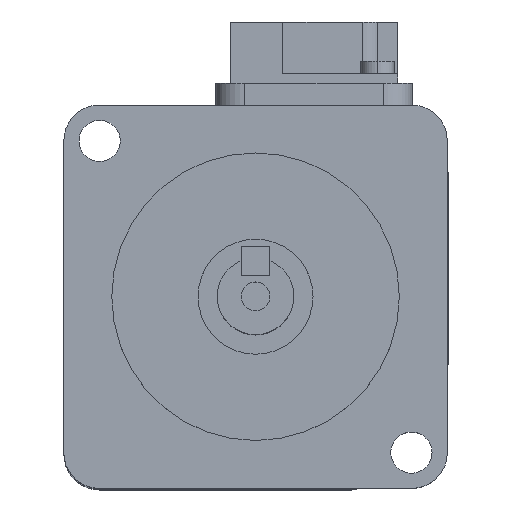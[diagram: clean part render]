
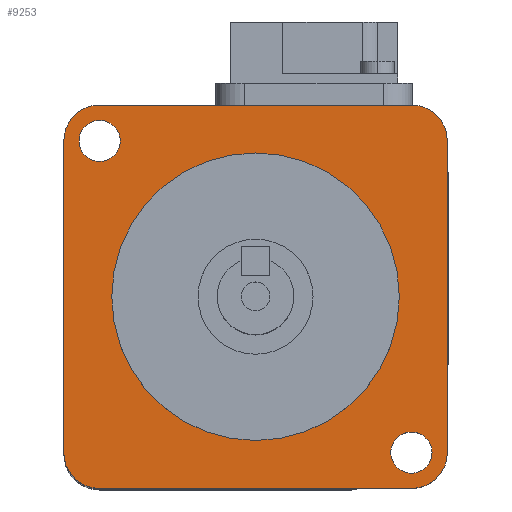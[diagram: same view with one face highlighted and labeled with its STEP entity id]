
A CAD part, top view. The second image highlights one B-rep face of the part: STEP entity #9253.
In plain terms, the highlighted planar face has unit normal (0, 0, 1).
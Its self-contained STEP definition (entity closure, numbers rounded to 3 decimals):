
#11 = ORIENTED_EDGE ( 'NONE', *, *, #9191, .T. ) ;
#12 = ORIENTED_EDGE ( 'NONE', *, *, #13, .T. ) ;
#13 = EDGE_CURVE ( 'NONE', #9190, #9079, #2527, .T. ) ;
#347 = EDGE_CURVE ( 'NONE', #472, #438, #3129, .T. ) ;
#438 = VERTEX_POINT ( 'NONE', #3282 ) ;
#472 = VERTEX_POINT ( 'NONE', #3353 ) ;
#479 = EDGE_CURVE ( 'NONE', #502, #480, #3346, .T. ) ;
#480 = VERTEX_POINT ( 'NONE', #3341 ) ;
#487 = VERTEX_POINT ( 'NONE', #2554 ) ;
#502 = VERTEX_POINT ( 'NONE', #3366 ) ;
#513 = VERTEX_POINT ( 'NONE', #3412 ) ;
#544 = EDGE_CURVE ( 'NONE', #487, #513, #3486, .T. ) ;
#2523 = DIRECTION ( 'NONE',  ( 1., 0., 0. ) ) ;
#2524 = DIRECTION ( 'NONE',  ( 0., 0., 1. ) ) ;
#2525 = CARTESIAN_POINT ( 'NONE',  ( -16.3, -16.3, 0. ) ) ;
#2526 = AXIS2_PLACEMENT_3D ( 'NONE', #2525, #2524, #2523 ) ;
#2527 = CIRCLE ( 'NONE', #2526, 3.7 ) ;
#2554 = CARTESIAN_POINT ( 'NONE',  ( 15., 0., 0. ) ) ;
#3125 = DIRECTION ( 'NONE',  ( 1., 0., 0. ) ) ;
#3126 = DIRECTION ( 'NONE',  ( 0., 0., 1. ) ) ;
#3127 = CARTESIAN_POINT ( 'NONE',  ( -16.263, 16.263, 0. ) ) ;
#3128 = AXIS2_PLACEMENT_3D ( 'NONE', #3127, #3126, #3125 ) ;
#3129 = CIRCLE ( 'NONE', #3128, 2.15 ) ;
#3282 = CARTESIAN_POINT ( 'NONE',  ( -14.113, 16.263, 0. ) ) ;
#3341 = CARTESIAN_POINT ( 'NONE',  ( 18.413, -16.263, 0. ) ) ;
#3342 = DIRECTION ( 'NONE',  ( 1., 0., 0. ) ) ;
#3343 = DIRECTION ( 'NONE',  ( 0., 0., 1. ) ) ;
#3344 = CARTESIAN_POINT ( 'NONE',  ( 16.263, -16.263, 0. ) ) ;
#3345 = AXIS2_PLACEMENT_3D ( 'NONE', #3344, #3343, #3342 ) ;
#3346 = CIRCLE ( 'NONE', #3345, 2.15 ) ;
#3353 = CARTESIAN_POINT ( 'NONE',  ( -18.413, 16.263, 0. ) ) ;
#3366 = CARTESIAN_POINT ( 'NONE',  ( 14.113, -16.263, 0. ) ) ;
#3412 = CARTESIAN_POINT ( 'NONE',  ( -15., 0., 0. ) ) ;
#3482 = DIRECTION ( 'NONE',  ( 1., 0., 0. ) ) ;
#3483 = DIRECTION ( 'NONE',  ( 0., 0., 1. ) ) ;
#3484 = CARTESIAN_POINT ( 'NONE',  ( 0., 0., 0. ) ) ;
#3485 = AXIS2_PLACEMENT_3D ( 'NONE', #3484, #3483, #3482 ) ;
#3486 = CIRCLE ( 'NONE', #3485, 15. ) ;
#7121 = DIRECTION ( 'NONE',  ( 1., 0., 0. ) ) ;
#7122 = DIRECTION ( 'NONE',  ( 0., 0., 1. ) ) ;
#7123 = CARTESIAN_POINT ( 'NONE',  ( -16.3, 16.3, 0. ) ) ;
#7124 = AXIS2_PLACEMENT_3D ( 'NONE', #7123, #7122, #7121 ) ;
#7125 = CIRCLE ( 'NONE', #7124, 3.7 ) ;
#7192 = DIRECTION ( 'NONE',  ( 1., 0., 0. ) ) ;
#7193 = DIRECTION ( 'NONE',  ( 0., 0., 1. ) ) ;
#7194 = CARTESIAN_POINT ( 'NONE',  ( -16.263, 16.263, 0. ) ) ;
#7195 = AXIS2_PLACEMENT_3D ( 'NONE', #7194, #7193, #7192 ) ;
#7196 = CIRCLE ( 'NONE', #7195, 2.15 ) ;
#7220 = DIRECTION ( 'NONE',  ( 1., 0., 0. ) ) ;
#7221 = DIRECTION ( 'NONE',  ( 0., 0., 1. ) ) ;
#7222 = CARTESIAN_POINT ( 'NONE',  ( 16.3, -16.3, 0. ) ) ;
#7223 = AXIS2_PLACEMENT_3D ( 'NONE', #7222, #7221, #7220 ) ;
#7224 = CIRCLE ( 'NONE', #7223, 3.7 ) ;
#7229 = DIRECTION ( 'NONE',  ( 1., 0., 0. ) ) ;
#7230 = DIRECTION ( 'NONE',  ( 0., 0., 1. ) ) ;
#7231 = CARTESIAN_POINT ( 'NONE',  ( 16.3, 16.3, 0. ) ) ;
#7232 = AXIS2_PLACEMENT_3D ( 'NONE', #7231, #7230, #7229 ) ;
#7237 = CIRCLE ( 'NONE', #7232, 3.7 ) ;
#7842 = DIRECTION ( 'NONE',  ( 1., 0., 0. ) ) ;
#7843 = VECTOR ( 'NONE', #7842, 1000. ) ;
#7844 = CARTESIAN_POINT ( 'NONE',  ( -20., -20., 0. ) ) ;
#7845 = LINE ( 'NONE', #7844, #7843 ) ;
#7850 = CARTESIAN_POINT ( 'NONE',  ( 16.3, -20., 0. ) ) ;
#7851 = CARTESIAN_POINT ( 'NONE',  ( -16.3, -20., 0. ) ) ;
#7922 = CARTESIAN_POINT ( 'NONE',  ( -16.3, 20., 0. ) ) ;
#7929 = CARTESIAN_POINT ( 'NONE',  ( 16.3, 20., 0. ) ) ;
#7959 = CARTESIAN_POINT ( 'NONE',  ( -20., 16.3, 0. ) ) ;
#7982 = DIRECTION ( 'NONE',  ( -1., 0., 0. ) ) ;
#7983 = VECTOR ( 'NONE', #7982, 1000. ) ;
#7984 = CARTESIAN_POINT ( 'NONE',  ( -20., 20., 0. ) ) ;
#7985 = LINE ( 'NONE', #7984, #7983 ) ;
#7992 = CARTESIAN_POINT ( 'NONE',  ( 20., -16.3, 0. ) ) ;
#7997 = DIRECTION ( 'NONE',  ( 0., 1., 0. ) ) ;
#7998 = VECTOR ( 'NONE', #7997, 1000. ) ;
#7999 = CARTESIAN_POINT ( 'NONE',  ( 20., 20., 0. ) ) ;
#8000 = LINE ( 'NONE', #7999, #7998 ) ;
#8002 = CARTESIAN_POINT ( 'NONE',  ( 20., 16.3, 0. ) ) ;
#8011 = DIRECTION ( 'NONE',  ( 0., -1., 0. ) ) ;
#8012 = VECTOR ( 'NONE', #8011, 1000. ) ;
#8013 = CARTESIAN_POINT ( 'NONE',  ( -20., 20., 0. ) ) ;
#8014 = LINE ( 'NONE', #8013, #8012 ) ;
#8015 = CARTESIAN_POINT ( 'NONE',  ( -20., -16.3, 0. ) ) ;
#8046 = FACE_OUTER_BOUND ( 'NONE', #8717, .T. ) ;
#8047 = FACE_BOUND ( 'NONE', #9229, .T. ) ;
#8048 = FACE_BOUND ( 'NONE', #9251, .T. ) ;
#8053 = FACE_BOUND ( 'NONE', #9232, .T. ) ;
#8056 = DIRECTION ( 'NONE',  ( 1., 0., 0. ) ) ;
#8057 = DIRECTION ( 'NONE',  ( 0., 0., 1. ) ) ;
#8058 = CARTESIAN_POINT ( 'NONE',  ( 0., 0., 0. ) ) ;
#8059 = AXIS2_PLACEMENT_3D ( 'NONE', #8058, #8057, #8056 ) ;
#8060 = CIRCLE ( 'NONE', #8059, 15. ) ;
#8061 = DIRECTION ( 'NONE',  ( 1., 0., 0. ) ) ;
#8062 = DIRECTION ( 'NONE',  ( 0., 0., 1. ) ) ;
#8063 = CARTESIAN_POINT ( 'NONE',  ( 16.263, -16.263, 0. ) ) ;
#8064 = AXIS2_PLACEMENT_3D ( 'NONE', #8063, #8062, #8061 ) ;
#8065 = CIRCLE ( 'NONE', #8064, 2.15 ) ;
#8099 = DIRECTION ( 'NONE',  ( 1., 0., 0. ) ) ;
#8100 = DIRECTION ( 'NONE',  ( 0., 0., 1. ) ) ;
#8101 = CARTESIAN_POINT ( 'NONE',  ( -20., -20., 0. ) ) ;
#8102 = AXIS2_PLACEMENT_3D ( 'NONE', #8101, #8100, #8099 ) ;
#8103 = PLANE ( 'NONE',  #8102 ) ;
#8703 = EDGE_CURVE ( 'NONE', #9156, #9178, #7125, .T. ) ;
#8715 = ORIENTED_EDGE ( 'NONE', *, *, #8703, .T. ) ;
#8717 = EDGE_LOOP ( 'NONE', ( #8718, #8715, #11, #12, #9234, #8757, #8751, #8752 ) ) ;
#8718 = ORIENTED_EDGE ( 'NONE', *, *, #9160, .T. ) ;
#8732 = ORIENTED_EDGE ( 'NONE', *, *, #347, .F. ) ;
#8733 = ORIENTED_EDGE ( 'NONE', *, *, #8734, .F. ) ;
#8734 = EDGE_CURVE ( 'NONE', #438, #472, #7196, .T. ) ;
#8742 = ORIENTED_EDGE ( 'NONE', *, *, #479, .F. ) ;
#8748 = EDGE_CURVE ( 'NONE', #9195, #9147, #7237, .T. ) ;
#8751 = ORIENTED_EDGE ( 'NONE', *, *, #9199, .T. ) ;
#8752 = ORIENTED_EDGE ( 'NONE', *, *, #8748, .T. ) ;
#8756 = EDGE_CURVE ( 'NONE', #9080, #9202, #7224, .T. ) ;
#8757 = ORIENTED_EDGE ( 'NONE', *, *, #8756, .T. ) ;
#9079 = VERTEX_POINT ( 'NONE', #7851 ) ;
#9080 = VERTEX_POINT ( 'NONE', #7850 ) ;
#9084 = EDGE_CURVE ( 'NONE', #9079, #9080, #7845, .T. ) ;
#9147 = VERTEX_POINT ( 'NONE', #7929 ) ;
#9156 = VERTEX_POINT ( 'NONE', #7922 ) ;
#9160 = EDGE_CURVE ( 'NONE', #9147, #9156, #7985, .T. ) ;
#9178 = VERTEX_POINT ( 'NONE', #7959 ) ;
#9190 = VERTEX_POINT ( 'NONE', #8015 ) ;
#9191 = EDGE_CURVE ( 'NONE', #9178, #9190, #8014, .T. ) ;
#9195 = VERTEX_POINT ( 'NONE', #8002 ) ;
#9199 = EDGE_CURVE ( 'NONE', #9202, #9195, #8000, .T. ) ;
#9202 = VERTEX_POINT ( 'NONE', #7992 ) ;
#9229 = EDGE_LOOP ( 'NONE', ( #8733, #8732 ) ) ;
#9232 = EDGE_LOOP ( 'NONE', ( #9247, #9249 ) ) ;
#9234 = ORIENTED_EDGE ( 'NONE', *, *, #9084, .T. ) ;
#9246 = ORIENTED_EDGE ( 'NONE', *, *, #9248, .F. ) ;
#9247 = ORIENTED_EDGE ( 'NONE', *, *, #9250, .F. ) ;
#9248 = EDGE_CURVE ( 'NONE', #480, #502, #8065, .T. ) ;
#9249 = ORIENTED_EDGE ( 'NONE', *, *, #544, .F. ) ;
#9250 = EDGE_CURVE ( 'NONE', #513, #487, #8060, .T. ) ;
#9251 = EDGE_LOOP ( 'NONE', ( #9246, #8742 ) ) ;
#9253 = ADVANCED_FACE ( 'NONE', ( #8053, #8048, #8047, #8046 ), #8103, .T. ) ;
